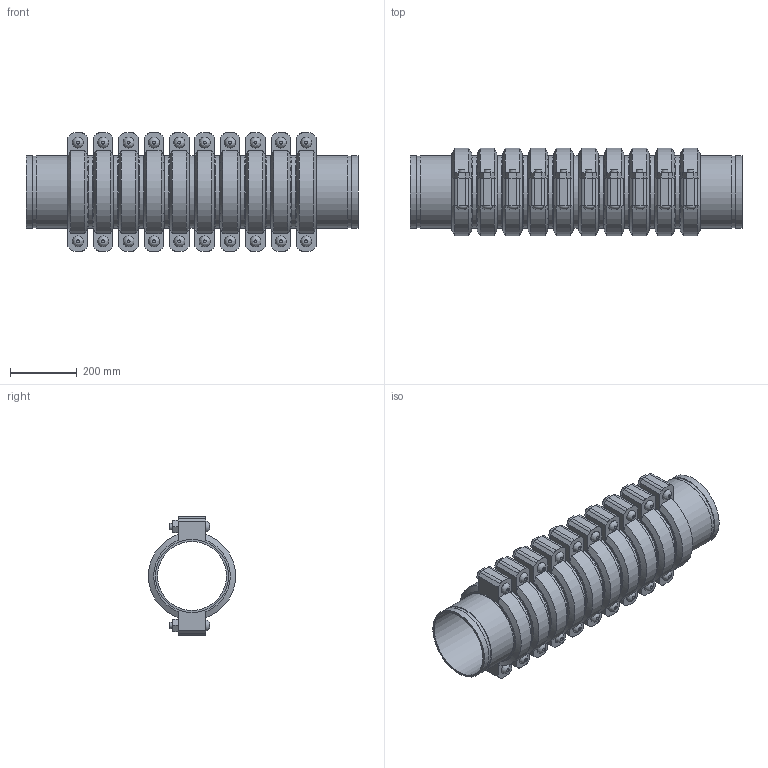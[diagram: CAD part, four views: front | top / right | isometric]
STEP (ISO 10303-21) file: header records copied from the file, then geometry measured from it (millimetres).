
FILE_DESCRIPTION(/* description */ ('VIC SS EXPANSION JOINT 10 COUPLINGS EXPANDED STYLE 155P (OGS) (POTABLE WATER) ','CAx-IF Rec.Pracs.---Representation and Presentation of Product Manufacturing Information (PMI)---4.0---2014-10-13'),/* implementation_level */ '2;1');
FILE_NAME(/* name */ 'C:\Users\kkamble\AppData\Roaming\Autodesk\ApplicationPlugins\Victaulic.Temp\A632\Victaulic_SS_Expansion Joint_Expanded_10 Couplings_Style 155P (OGS)-Potable Water_10 Coup_Expd_8 (200).stp',/* time_stamp */ '2021-07-16T16:45:09+05:00',/* author */ ('kkamble'),/* organization */ ('Victaulic'),/* preprocessor_version */ 'ST-DEVELOPER v17.2',/* originating_system */ 'Autodesk Inventor 2019',/* authorisation */ '');
FILE_SCHEMA (('AP242_MANAGED_MODEL_BASED_3D_ENGINEERING_MIM_LF { 1 0 10303 442 1 1 4 }'));
Length unit declared in the file: inch
Products named in the file (4): 155P-08.0; Nipple-08.0; Nipple-08.0_1; 075-08.0
Assembly tree (21 placements, depth 2):
  155P-08.0
    Nipple-08.0  x2
    Nipple-08.0_1  x9
    075-08.0  x10
Bounding box: 996.95 x 261.72 x 354.84 mm (x, y, z)
Volume: 17399156.5 mm3; surface area: 3159479.2 mm2
Topology: 21 solids, 41 shells, 702 faces, 1661 edges, 1166 vertices
Faces by surface type: plane 426, cylinder 216, cone 40, bspline 20
Full cylindrical faces by diameter (mm): 19.05 x40, 21.209 x20, 206.985 x11, 212.725 x10, 214.401 x22, 219.075 x53
Entity records: 2886 total; most frequent: CARTESIAN_POINT 507, DIRECTION 485, ORIENTED_EDGE 386, AXIS2_PLACEMENT_3D 196, EDGE_CURVE 193, VERTEX_POINT 138, EDGE_LOOP 107, LINE 93
